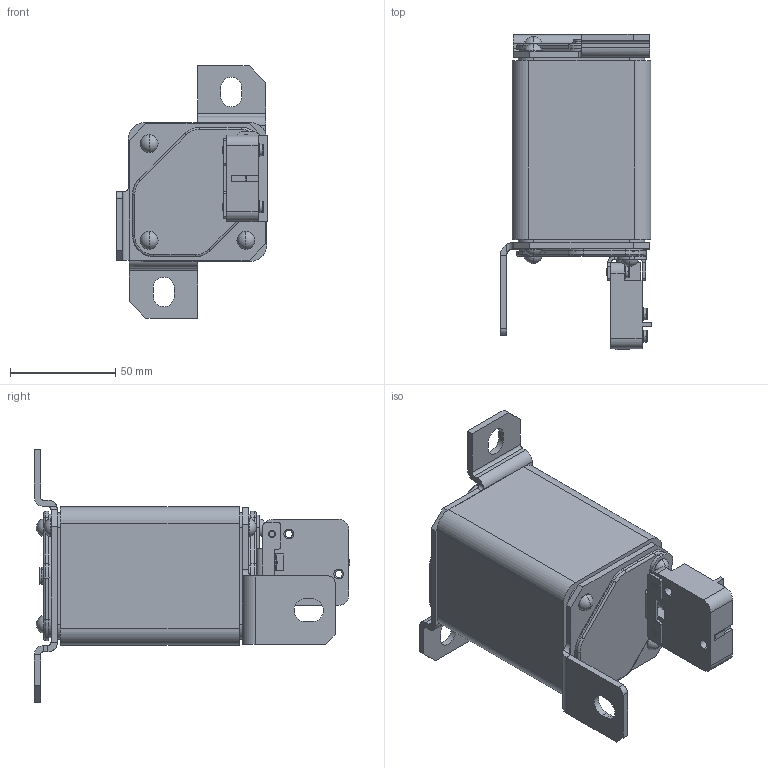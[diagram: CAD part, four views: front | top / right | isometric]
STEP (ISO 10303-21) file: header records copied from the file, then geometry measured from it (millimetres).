
FILE_DESCRIPTION (( 'STEP AP214' ), '1' );
FILE_NAME ('砎槼隰譇膻蠈錪 珫57-37681-迕-XXXA-XXXX-忡曖.STEP', '2023-05-11T12:14:44', ( '' ), ( '' ), 'SwSTEP 2.0', 'SolidWorks 2018', '' );
FILE_SCHEMA (( 'AUTOMOTIVE_DESIGN' ));
Length unit declared in the file: millimetre
Products named in the file (1): 砎槼隰譇膻蠈錪 珫57-37681-迕-XXXA-XXXX-忡曖
Bounding box: 71.76 x 150 x 120 mm (x, y, z)
Volume: 445119.2 mm3; surface area: 63330.5 mm2
Topology: 1 solids, 20 shells, 820 faces, 1932 edges, 1194 vertices
Faces by surface type: plane 381, cylinder 313, torus 82, cone 28, sphere 16
Entity records: 33330 total; most frequent: CARTESIAN_POINT 4763, DIRECTION 4367, ORIENTED_EDGE 3864, EDGE_CURVE 1932, AXIS2_PLACEMENT_3D 1677, VERTEX_POINT 1194, LINE 1013, VECTOR 1013
